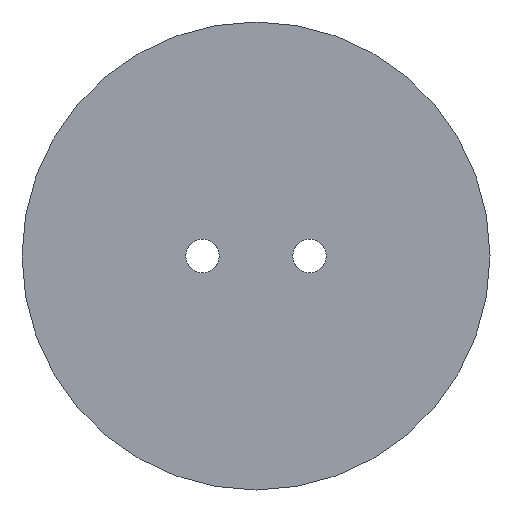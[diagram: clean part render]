
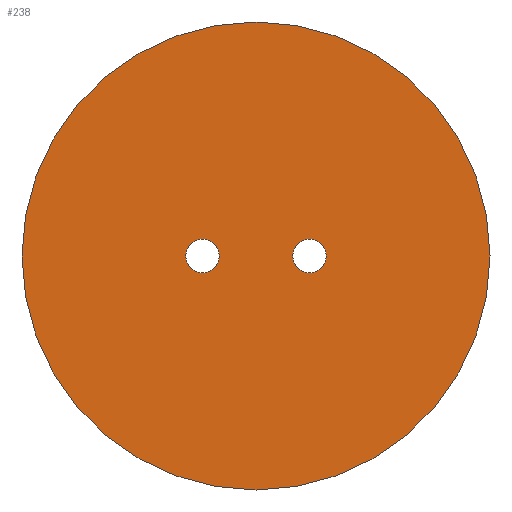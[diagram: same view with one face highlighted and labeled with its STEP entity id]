
A CAD part, front view. The second image highlights one B-rep face of the part: STEP entity #238.
In plain terms, the highlighted planar face has unit normal (0, -1, 0).
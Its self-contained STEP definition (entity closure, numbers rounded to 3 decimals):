
#17=FACE_BOUND('',#47,.T.);
#18=FACE_BOUND('',#48,.T.);
#23=PLANE('',#269);
#31=FACE_OUTER_BOUND('',#46,.T.);
#46=EDGE_LOOP('',(#172));
#47=EDGE_LOOP('',(#173));
#48=EDGE_LOOP('',(#174));
#67=CIRCLE('',#270,17.5);
#68=CIRCLE('',#271,1.25);
#69=CIRCLE('',#272,1.25);
#115=VERTEX_POINT('',#513);
#116=VERTEX_POINT('',#515);
#117=VERTEX_POINT('',#517);
#138=EDGE_CURVE('',#115,#115,#67,.T.);
#139=EDGE_CURVE('',#116,#116,#68,.T.);
#140=EDGE_CURVE('',#117,#117,#69,.T.);
#172=ORIENTED_EDGE('',*,*,#138,.F.);
#173=ORIENTED_EDGE('',*,*,#139,.F.);
#174=ORIENTED_EDGE('',*,*,#140,.F.);
#238=ADVANCED_FACE('',(#31,#17,#18),#23,.F.);
#269=AXIS2_PLACEMENT_3D('',#512,#302,#303);
#270=AXIS2_PLACEMENT_3D('',#514,#304,#305);
#271=AXIS2_PLACEMENT_3D('',#516,#306,#307);
#272=AXIS2_PLACEMENT_3D('',#518,#308,#309);
#302=DIRECTION('center_axis',(0.,1.,0.));
#303=DIRECTION('ref_axis',(1.,0.,0.));
#304=DIRECTION('center_axis',(0.,1.,0.));
#305=DIRECTION('ref_axis',(1.,0.,0.));
#306=DIRECTION('center_axis',(0.,-1.,0.));
#307=DIRECTION('ref_axis',(-1.,0.,0.));
#308=DIRECTION('center_axis',(0.,-1.,0.));
#309=DIRECTION('ref_axis',(-1.,0.,0.));
#512=CARTESIAN_POINT('Origin',(0.,0.,0.));
#513=CARTESIAN_POINT('',(-17.5,0.,0.));
#514=CARTESIAN_POINT('Origin',(0.,0.,0.));
#515=CARTESIAN_POINT('',(-2.75,0.,0.));
#516=CARTESIAN_POINT('Origin',(-4.,0.,0.));
#517=CARTESIAN_POINT('',(5.25,0.,0.));
#518=CARTESIAN_POINT('Origin',(4.,0.,0.));
